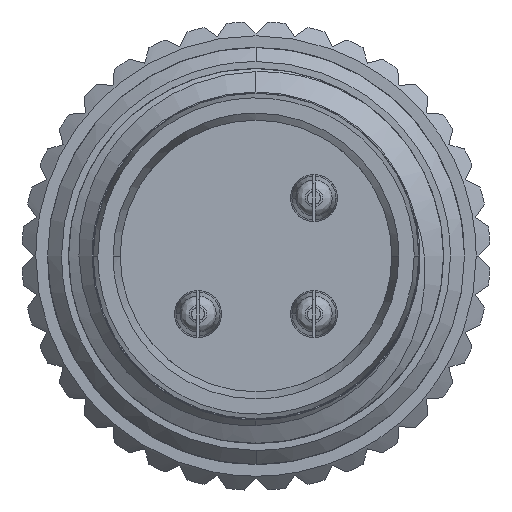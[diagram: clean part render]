
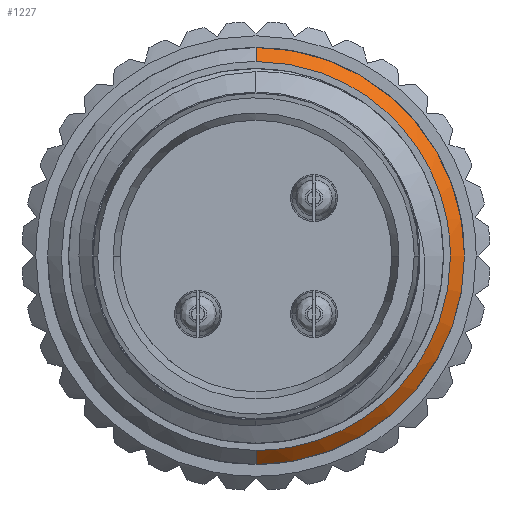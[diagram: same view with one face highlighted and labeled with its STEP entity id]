
A CAD part, left-side view. The second image highlights one B-rep face of the part: STEP entity #1227.
In plain terms, the highlighted conical face has half-angle 45 degrees and reference radius 4.45 mm.
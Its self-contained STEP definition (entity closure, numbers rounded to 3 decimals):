
#1 = CARTESIAN_POINT ( 'NONE',  ( -7.05, -3.319, 2.55 ) ) ;
#496 = EDGE_CURVE ( 'NONE', #19688, #22941, #26792, .T. ) ;
#1040 = CARTESIAN_POINT ( 'NONE',  ( -7.05, 0., -4.15 ) ) ;
#1188 = CARTESIAN_POINT ( 'NONE',  ( -7.05, -4.15, 0. ) ) ;
#1225 = VERTEX_POINT ( 'NONE', #3497 ) ;
#1227 = ADVANCED_FACE ( 'NONE', ( #22606 ), #11009, .T. ) ;
#1386 = CARTESIAN_POINT ( 'NONE',  ( -6.75, 0., 0. ) ) ;
#2484 = ORIENTED_EDGE ( 'NONE', *, *, #22313, .T. ) ;
#2763 = VERTEX_POINT ( 'NONE', #23171 ) ;
#3087 = ORIENTED_EDGE ( 'NONE', *, *, #496, .F. ) ;
#3292 = CARTESIAN_POINT ( 'NONE',  ( -7.05, -3.319, -2.55 ) ) ;
#3497 = CARTESIAN_POINT ( 'NONE',  ( -7.05, 0., -4.15 ) ) ;
#5284 = DIRECTION ( 'NONE',  ( 0.707, 0., 0.707 ) ) ;
#5847 = B_SPLINE_CURVE_WITH_KNOTS ( 'NONE', 3,
 ( #25605, #17252, #6213, #27882, #23197, #1, #27450, #14842, #8634, #8498 ),
 .UNSPECIFIED., .F., .F.,
 ( 4, 2, 2, 2, 4 ),
 ( 0., 0.25, 0.5, 0.75, 1. ),
 .UNSPECIFIED. ) ;
#6213 = CARTESIAN_POINT ( 'NONE',  ( -7.05, -1.086, 4.042 ) ) ;
#6587 = ORIENTED_EDGE ( 'NONE', *, *, #23877, .F. ) ;
#6896 = LINE ( 'NONE', #15520, #18465 ) ;
#7579 = CARTESIAN_POINT ( 'NONE',  ( -6.75, 0., 4.45 ) ) ;
#7882 = VECTOR ( 'NONE', #5284, 1000. ) ;
#7906 = ORIENTED_EDGE ( 'NONE', *, *, #10475, .T. ) ;
#8498 = CARTESIAN_POINT ( 'NONE',  ( -7.05, -4.15, 0. ) ) ;
#8634 = CARTESIAN_POINT ( 'NONE',  ( -7.05, -4.15, 0.543 ) ) ;
#9952 = CARTESIAN_POINT ( 'NONE',  ( -6.75, 0., -4.45 ) ) ;
#10332 = CARTESIAN_POINT ( 'NONE',  ( -6.75, 0., 0. ) ) ;
#10466 = DIRECTION ( 'NONE',  ( 1., 0., 0. ) ) ;
#10475 = EDGE_CURVE ( 'NONE', #1225, #23728, #6896, .T. ) ;
#11009 = CONICAL_SURFACE ( 'NONE', #27723, 4.45, 0.785 ) ;
#12288 = DIRECTION ( 'NONE',  ( 0., 0., 1. ) ) ;
#12466 = ORIENTED_EDGE ( 'NONE', *, *, #26253, .T. ) ;
#13913 = CARTESIAN_POINT ( 'NONE',  ( -7.05, -1.086, -4.042 ) ) ;
#14038 = CARTESIAN_POINT ( 'NONE',  ( -6.75, 0., 4.45 ) ) ;
#14842 = CARTESIAN_POINT ( 'NONE',  ( -7.05, -4.042, 1.086 ) ) ;
#15520 = CARTESIAN_POINT ( 'NONE',  ( -6.75, 0., -4.45 ) ) ;
#16006 = AXIS2_PLACEMENT_3D ( 'NONE', #10332, #10466, #12288 ) ;
#16180 = CARTESIAN_POINT ( 'NONE',  ( -7.05, -2.09, -3.626 ) ) ;
#16662 = DIRECTION ( 'NONE',  ( 0., 0., -1. ) ) ;
#16798 = DIRECTION ( 'NONE',  ( 1., 0., 0. ) ) ;
#17252 = CARTESIAN_POINT ( 'NONE',  ( -7.05, -0.543, 4.15 ) ) ;
#17793 = DIRECTION ( 'NONE',  ( 0.707, 0., -0.707 ) ) ;
#18465 = VECTOR ( 'NONE', #17793, 1000. ) ;
#18588 = CARTESIAN_POINT ( 'NONE',  ( -7.05, -4.042, -1.086 ) ) ;
#19688 = VERTEX_POINT ( 'NONE', #21263 ) ;
#20429 = CARTESIAN_POINT ( 'NONE',  ( -7.05, -3.626, -2.09 ) ) ;
#20718 = CARTESIAN_POINT ( 'NONE',  ( -7.05, -2.55, -3.319 ) ) ;
#21263 = CARTESIAN_POINT ( 'NONE',  ( -7.05, 0., 4.15 ) ) ;
#21826 = EDGE_LOOP ( 'NONE', ( #3087, #2484, #12466, #7906, #6587 ) ) ;
#22313 = EDGE_CURVE ( 'NONE', #19688, #2763, #5847, .T. ) ;
#22606 = FACE_OUTER_BOUND ( 'NONE', #21826, .T. ) ;
#22691 = CARTESIAN_POINT ( 'NONE',  ( -7.05, -4.15, -0.543 ) ) ;
#22941 = VERTEX_POINT ( 'NONE', #7579 ) ;
#22981 = CARTESIAN_POINT ( 'NONE',  ( -7.05, -0.543, -4.15 ) ) ;
#23171 = CARTESIAN_POINT ( 'NONE',  ( -7.05, -4.15, 0. ) ) ;
#23197 = CARTESIAN_POINT ( 'NONE',  ( -7.05, -2.55, 3.319 ) ) ;
#23728 = VERTEX_POINT ( 'NONE', #9952 ) ;
#23877 = EDGE_CURVE ( 'NONE', #22941, #23728, #25034, .T. ) ;
#25034 = CIRCLE ( 'NONE', #16006, 4.45 ) ;
#25605 = CARTESIAN_POINT ( 'NONE',  ( -7.05, 0., 4.15 ) ) ;
#26253 = EDGE_CURVE ( 'NONE', #2763, #1225, #27271, .T. ) ;
#26792 = LINE ( 'NONE', #14038, #7882 ) ;
#27271 = B_SPLINE_CURVE_WITH_KNOTS ( 'NONE', 3,
 ( #1188, #22691, #18588, #20429, #3292, #20718, #16180, #13913, #22981, #1040 ),
 .UNSPECIFIED., .F., .F.,
 ( 4, 2, 2, 2, 4 ),
 ( 0., 0.25, 0.5, 0.75, 1. ),
 .UNSPECIFIED. ) ;
#27450 = CARTESIAN_POINT ( 'NONE',  ( -7.05, -3.626, 2.09 ) ) ;
#27723 = AXIS2_PLACEMENT_3D ( 'NONE', #1386, #16798, #16662 ) ;
#27882 = CARTESIAN_POINT ( 'NONE',  ( -7.05, -2.09, 3.626 ) ) ;
